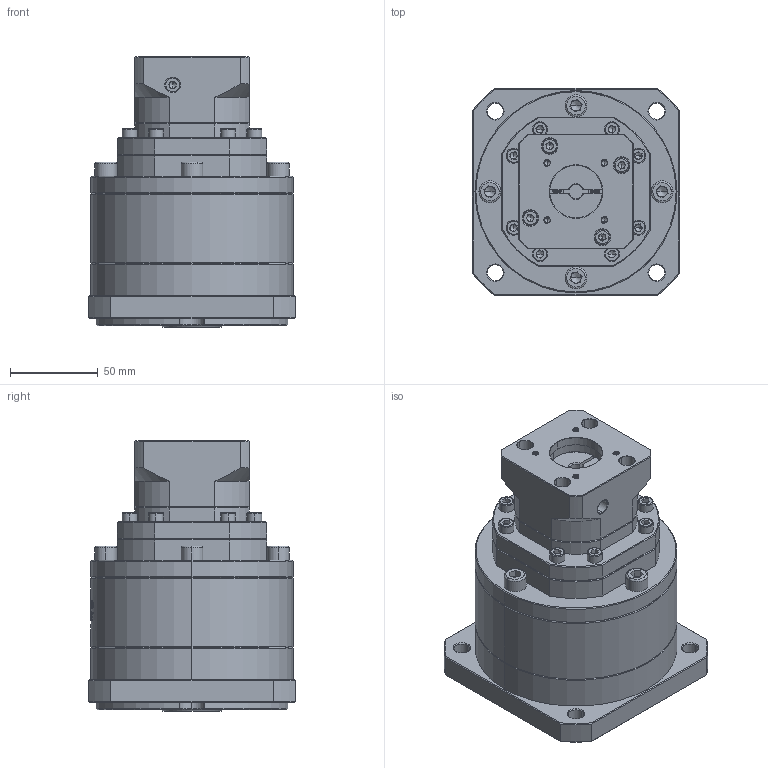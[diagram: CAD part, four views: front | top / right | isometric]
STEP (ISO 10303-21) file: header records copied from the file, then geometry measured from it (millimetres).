
FILE_DESCRIPTION (( 'STEP AP214' ), '1' );
FILE_NAME ('ZF120A-K25-L3-P2-8-30-46-M4.step', '2023-08-27T06:33:33', ( '' ), ( '' ), 'SwSTEP 2.0', 'SolidWorks 2016', '' );
FILE_SCHEMA (( 'AUTOMOTIVE_DESIGN' ));
Length unit declared in the file: millimetre
Products named in the file (1): ZF120A-K25-L3-P2-8-30-46-M4
Bounding box: 118 x 118 x 154 mm (x, y, z)
Volume: 1173278.3 mm3; surface area: 114871.5 mm2
Topology: 7 solids, 7 shells, 2292 faces, 6110 edges, 3928 vertices
Faces by surface type: plane 1172, bspline 426, cylinder 378, cone 294, torus 22
Entity records: 117406 total; most frequent: CARTESIAN_POINT 40248, ORIENTED_EDGE 12116, DIRECTION 9007, EDGE_CURVE 6058, VERTEX_POINT 3928, LINE 3259, VECTOR 3259, AXIS2_PLACEMENT_3D 2874
